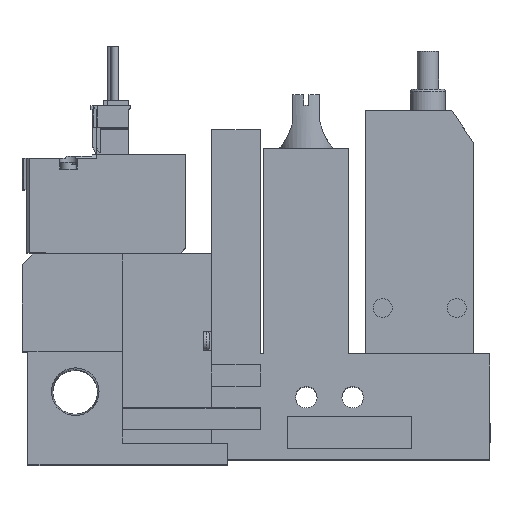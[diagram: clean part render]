
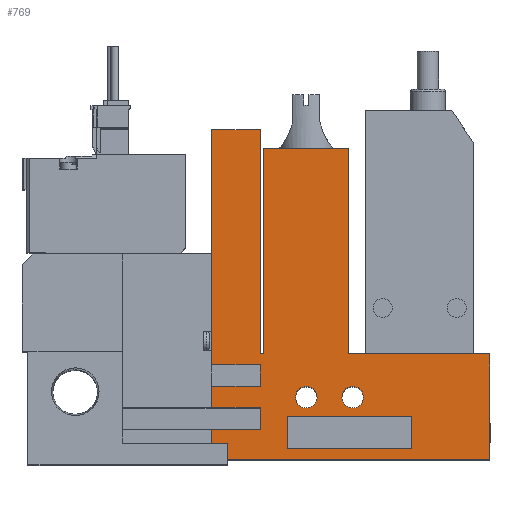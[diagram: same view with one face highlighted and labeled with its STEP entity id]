
A CAD part, top view. The second image highlights one B-rep face of the part: STEP entity #769.
In plain terms, the highlighted planar face has unit normal (0, 0, 1).
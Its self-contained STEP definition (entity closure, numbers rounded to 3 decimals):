
#769=ADVANCED_FACE('',(#1571,#1572,#1573,#1574),#1575,.T.);
#1571=FACE_OUTER_BOUND('',#2644,.T.);
#1572=FACE_BOUND('',#2645,.T.);
#1573=FACE_BOUND('',#2646,.T.);
#1574=FACE_BOUND('',#2647,.T.);
#1575=PLANE('',#2648);
#2644=EDGE_LOOP('',(#5519,#5520,#5521,#5522,#5523,#5524,#5525,#5526,#5527,#5528,#5529,#5530,#5531,#5532,#5533,#5534,#5535,#5536));
#2645=EDGE_LOOP('',(#5537,#5538,#5539,#5540));
#2646=EDGE_LOOP('',(#5541));
#2647=EDGE_LOOP('',(#5542));
#2648=AXIS2_PLACEMENT_3D('',#5543,#5544,#5545);
#5519=ORIENTED_EDGE('',*,*,#7523,.T.);
#5520=ORIENTED_EDGE('',*,*,#7504,.T.);
#5521=ORIENTED_EDGE('',*,*,#7524,.T.);
#5522=ORIENTED_EDGE('',*,*,#7442,.T.);
#5523=ORIENTED_EDGE('',*,*,#7525,.T.);
#5524=ORIENTED_EDGE('',*,*,#7526,.T.);
#5525=ORIENTED_EDGE('',*,*,#7517,.T.);
#5526=ORIENTED_EDGE('',*,*,#7527,.T.);
#5527=ORIENTED_EDGE('',*,*,#7493,.T.);
#5528=ORIENTED_EDGE('',*,*,#7528,.T.);
#5529=ORIENTED_EDGE('',*,*,#7529,.T.);
#5530=ORIENTED_EDGE('',*,*,#7530,.T.);
#5531=ORIENTED_EDGE('',*,*,#7531,.T.);
#5532=ORIENTED_EDGE('',*,*,#7532,.T.);
#5533=ORIENTED_EDGE('',*,*,#7454,.T.);
#5534=ORIENTED_EDGE('',*,*,#7533,.T.);
#5535=ORIENTED_EDGE('',*,*,#7534,.T.);
#5536=ORIENTED_EDGE('',*,*,#7535,.T.);
#5537=ORIENTED_EDGE('',*,*,#7508,.T.);
#5538=ORIENTED_EDGE('',*,*,#7536,.T.);
#5539=ORIENTED_EDGE('',*,*,#7500,.T.);
#5540=ORIENTED_EDGE('',*,*,#7506,.T.);
#5541=ORIENTED_EDGE('',*,*,#7519,.T.);
#5542=ORIENTED_EDGE('',*,*,#7537,.T.);
#5543=CARTESIAN_POINT('',(0.0,0.0,10.0));
#5544=DIRECTION('',(0.0,0.0,1.0));
#5545=DIRECTION('',(1.0,0.0,0.0));
#7442=EDGE_CURVE('',#9054,#9061,#9063,.T.);
#7454=EDGE_CURVE('',#9086,#9084,#9087,.T.);
#7493=EDGE_CURVE('',#9151,#9155,#9157,.T.);
#7500=EDGE_CURVE('',#9166,#9168,#9170,.T.);
#7504=EDGE_CURVE('',#9171,#9175,#9177,.T.);
#7506=EDGE_CURVE('',#9168,#9178,#9180,.T.);
#7508=EDGE_CURVE('',#9178,#9181,#9183,.T.);
#7517=EDGE_CURVE('',#9196,#9198,#9200,.T.);
#7519=EDGE_CURVE('',#9203,#9203,#9204,.T.);
#7523=EDGE_CURVE('',#9210,#9171,#9211,.T.);
#7524=EDGE_CURVE('',#9175,#9054,#9212,.T.);
#7525=EDGE_CURVE('',#9061,#9213,#9214,.T.);
#7526=EDGE_CURVE('',#9213,#9196,#9215,.T.);
#7527=EDGE_CURVE('',#9198,#9151,#9216,.T.);
#7528=EDGE_CURVE('',#9155,#9217,#9218,.T.);
#7529=EDGE_CURVE('',#9217,#9219,#9220,.T.);
#7530=EDGE_CURVE('',#9219,#9221,#9222,.T.);
#7531=EDGE_CURVE('',#9221,#9223,#9224,.T.);
#7532=EDGE_CURVE('',#9223,#9086,#9225,.T.);
#7533=EDGE_CURVE('',#9084,#9226,#9227,.T.);
#7534=EDGE_CURVE('',#9226,#9228,#9229,.T.);
#7535=EDGE_CURVE('',#9228,#9210,#9230,.T.);
#7536=EDGE_CURVE('',#9181,#9166,#9231,.T.);
#7537=EDGE_CURVE('',#9232,#9232,#9233,.T.);
#9054=VERTEX_POINT('',#11669);
#9061=VERTEX_POINT('',#11679);
#9063=LINE('',#11682,#11683);
#9084=VERTEX_POINT('',#11714);
#9086=VERTEX_POINT('',#11717);
#9087=LINE('',#11718,#11719);
#9151=VERTEX_POINT('',#11813);
#9155=VERTEX_POINT('',#11819);
#9157=LINE('',#11822,#11823);
#9166=VERTEX_POINT('',#11836);
#9168=VERTEX_POINT('',#11839);
#9170=LINE('',#11842,#11843);
#9171=VERTEX_POINT('',#11844);
#9175=VERTEX_POINT('',#11850);
#9177=LINE('',#11853,#11854);
#9178=VERTEX_POINT('',#11855);
#9180=LINE('',#11858,#11859);
#9181=VERTEX_POINT('',#11860);
#9183=LINE('',#11863,#11864);
#9196=VERTEX_POINT('',#11881);
#9198=VERTEX_POINT('',#11884);
#9200=LINE('',#11887,#11888);
#9203=VERTEX_POINT('',#11891);
#9204=CIRCLE('',#11892,2.0);
#9210=VERTEX_POINT('',#11901);
#9211=LINE('',#11902,#11903);
#9212=LINE('',#11904,#11905);
#9213=VERTEX_POINT('',#11906);
#9214=LINE('',#11907,#11908);
#9215=LINE('',#11909,#11910);
#9216=LINE('',#11911,#11912);
#9217=VERTEX_POINT('',#11913);
#9218=LINE('',#11914,#11915);
#9219=VERTEX_POINT('',#11916);
#9220=LINE('',#11917,#11918);
#9221=VERTEX_POINT('',#11919);
#9222=LINE('',#11920,#11921);
#9223=VERTEX_POINT('',#11922);
#9224=LINE('',#11923,#11924);
#9225=LINE('',#11925,#11926);
#9226=VERTEX_POINT('',#11927);
#9227=LINE('',#11928,#11929);
#9228=VERTEX_POINT('',#11930);
#9229=LINE('',#11931,#11932);
#9230=LINE('',#11933,#11934);
#9231=LINE('',#11935,#11936);
#9232=VERTEX_POINT('',#11937);
#9233=CIRCLE('',#11938,2.0);
#11669=CARTESIAN_POINT('',(44.1,13.5,10.0));
#11679=CARTESIAN_POINT('',(35.1,13.5,10.0));
#11682=CARTESIAN_POINT('',(0.0,13.5,10.0));
#11683=VECTOR('',#13743,1.0);
#11714=CARTESIAN_POINT('',(44.75,19.5,10.0));
#11717=CARTESIAN_POINT('',(44.75,57.5,10.0));
#11718=CARTESIAN_POINT('',(44.75,57.5,10.0));
#11719=VECTOR('',#13755,1.0);
#11813=CARTESIAN_POINT('',(35.1,5.5,10.0));
#11819=CARTESIAN_POINT('',(35.1,0.0,10.0));
#11822=CARTESIAN_POINT('',(35.1,0.0,10.0));
#11823=VECTOR('',#13804,1.0);
#11836=CARTESIAN_POINT('',(72.1,8.0,10.0));
#11839=CARTESIAN_POINT('',(72.1,2.0,10.0));
#11842=CARTESIAN_POINT('',(72.1,0.0,10.0));
#11843=VECTOR('',#13811,1.0);
#11844=CARTESIAN_POINT('',(35.1,17.5,10.0));
#11850=CARTESIAN_POINT('',(44.1,17.5,10.0));
#11853=CARTESIAN_POINT('',(0.0,17.5,10.0));
#11854=VECTOR('',#13815,1.0);
#11855=CARTESIAN_POINT('',(49.1,2.0,10.0));
#11858=CARTESIAN_POINT('',(0.0,2.0,10.0));
#11859=VECTOR('',#13817,1.0);
#11860=CARTESIAN_POINT('',(49.1,8.0,10.0));
#11863=CARTESIAN_POINT('',(49.1,0.0,10.0));
#11864=VECTOR('',#13819,1.0);
#11881=CARTESIAN_POINT('',(44.1,9.5,10.0));
#11884=CARTESIAN_POINT('',(44.1,5.5,10.0));
#11887=CARTESIAN_POINT('',(44.1,0.0,10.0));
#11888=VECTOR('',#13832,1.0);
#11891=CARTESIAN_POINT('',(54.6,11.5,10.0));
#11892=AXIS2_PLACEMENT_3D('',#13836,#13837,#13838);
#11901=CARTESIAN_POINT('',(35.1,61.0,10.0));
#11902=CARTESIAN_POINT('',(35.1,61.0,10.0));
#11903=VECTOR('',#13842,1.0);
#11904=CARTESIAN_POINT('',(44.1,0.0,10.0));
#11905=VECTOR('',#13843,1.0);
#11906=CARTESIAN_POINT('',(35.1,9.5,10.0));
#11907=CARTESIAN_POINT('',(35.1,0.0,10.0));
#11908=VECTOR('',#13844,1.0);
#11909=CARTESIAN_POINT('',(0.0,9.5,10.0));
#11910=VECTOR('',#13845,1.0);
#11911=CARTESIAN_POINT('',(0.0,5.5,10.0));
#11912=VECTOR('',#13846,1.0);
#11913=CARTESIAN_POINT('',(86.6,0.0,10.0));
#11914=CARTESIAN_POINT('',(18.6,0.0,10.0));
#11915=VECTOR('',#13847,1.0);
#11916=CARTESIAN_POINT('',(86.6,19.5,10.0));
#11917=CARTESIAN_POINT('',(86.6,0.0,10.0));
#11918=VECTOR('',#13848,1.0);
#11919=CARTESIAN_POINT('',(60.45,19.5,10.0));
#11920=CARTESIAN_POINT('',(86.6,19.5,10.0));
#11921=VECTOR('',#13849,1.0);
#11922=CARTESIAN_POINT('',(60.45,57.5,10.0));
#11923=CARTESIAN_POINT('',(60.45,19.5,10.0));
#11924=VECTOR('',#13850,1.0);
#11925=CARTESIAN_POINT('',(60.45,57.5,10.0));
#11926=VECTOR('',#13851,1.0);
#11927=CARTESIAN_POINT('',(44.1,19.5,10.0));
#11928=CARTESIAN_POINT('',(44.75,19.5,10.0));
#11929=VECTOR('',#13852,1.0);
#11930=CARTESIAN_POINT('',(44.1,61.0,10.0));
#11931=CARTESIAN_POINT('',(44.1,19.5,10.0));
#11932=VECTOR('',#13853,1.0);
#11933=CARTESIAN_POINT('',(44.1,61.0,10.0));
#11934=VECTOR('',#13854,1.0);
#11935=CARTESIAN_POINT('',(0.0,8.0,10.0));
#11936=VECTOR('',#13855,1.0);
#11937=CARTESIAN_POINT('',(63.2,11.5,10.0));
#11938=AXIS2_PLACEMENT_3D('',#13856,#13857,#13858);
#13743=DIRECTION('',(-1.0,0.0,0.0));
#13755=DIRECTION('',(0.0,-1.0,0.0));
#13804=DIRECTION('',(0.0,-1.0,0.0));
#13811=DIRECTION('',(0.0,-1.0,0.0));
#13815=DIRECTION('',(1.0,0.0,0.0));
#13817=DIRECTION('',(-1.0,0.0,0.0));
#13819=DIRECTION('',(0.0,1.0,0.0));
#13832=DIRECTION('',(0.0,-1.0,0.0));
#13836=CARTESIAN_POINT('',(52.6,11.5,10.0));
#13837=DIRECTION('',(0.0,0.0,-1.0));
#13838=DIRECTION('',(1.0,0.0,0.0));
#13842=DIRECTION('',(0.0,-1.0,0.0));
#13843=DIRECTION('',(0.0,-1.0,0.0));
#13844=DIRECTION('',(0.0,-1.0,0.0));
#13845=DIRECTION('',(1.0,0.0,0.0));
#13846=DIRECTION('',(-1.0,0.0,0.0));
#13847=DIRECTION('',(1.0,0.0,0.0));
#13848=DIRECTION('',(0.0,1.0,0.0));
#13849=DIRECTION('',(-1.0,0.0,0.0));
#13850=DIRECTION('',(0.0,1.0,0.0));
#13851=DIRECTION('',(-1.0,0.0,0.0));
#13852=DIRECTION('',(-1.0,0.0,0.0));
#13853=DIRECTION('',(0.0,1.0,0.0));
#13854=DIRECTION('',(-1.0,0.0,0.0));
#13855=DIRECTION('',(1.0,0.0,0.0));
#13856=CARTESIAN_POINT('',(61.2,11.5,10.0));
#13857=DIRECTION('',(0.0,0.0,-1.0));
#13858=DIRECTION('',(1.0,0.0,0.0));
